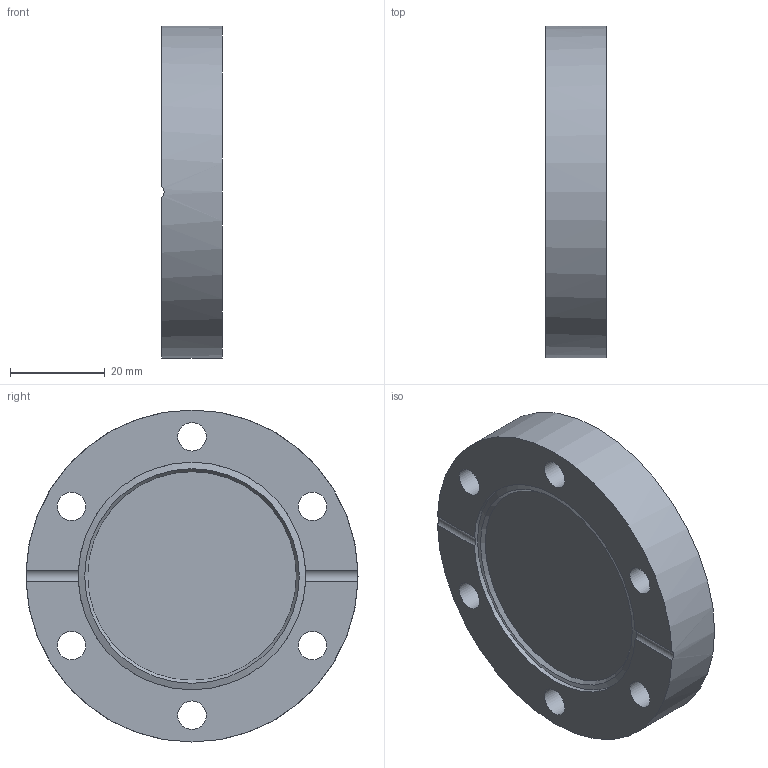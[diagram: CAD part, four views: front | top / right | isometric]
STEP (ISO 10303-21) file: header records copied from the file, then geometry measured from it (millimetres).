
FILE_DESCRIPTION( ( 'Unknown' ), '1' );
FILE_NAME( 'X:/Daten ( aktueller Bestand )/Projekte und Zeichnungen/Solid Edge/STP-Dateien/CF-Teile/7422FG4.stp', 'Unknown', ( 'Unknown' ), ( 'Unknown' ), 'PSStep 14.0', 'Unknown', ' ' );
FILE_SCHEMA( ( 'AUTOMOTIVE_DESIGN { 1 0 10303 214 1 1 1 1 }' ) );
Length unit declared in the file: millimetre
Products named in the file (2): Assem1; 1_0
Assembly tree (1 placements, depth 2):
  Assem1
    1_0
Bounding box: 12.7 x 70 x 70 mm (x, y, z)
Volume: 44496.8 mm3; surface area: 11808.4 mm2
Topology: 1 solids, 1 shells, 16 faces, 46 edges, 32 vertices
Faces by surface type: cylinder 10, plane 4, cone 2
Full cylindrical faces by diameter (mm): 6 x6, 48 x1, 70 x1
Entity records: 654 total; most frequent: CARTESIAN_POINT 122, DIRECTION 80, ORIENTED_EDGE 56, AXIS2_PLACEMENT_3D 38, EDGE_LOOP 38, EDGE_CURVE 28, FACE_OUTER_BOUND 24, VERTEX_POINT 24
